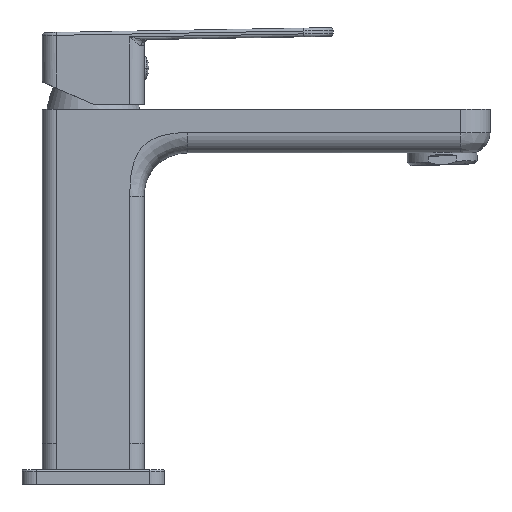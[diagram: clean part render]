
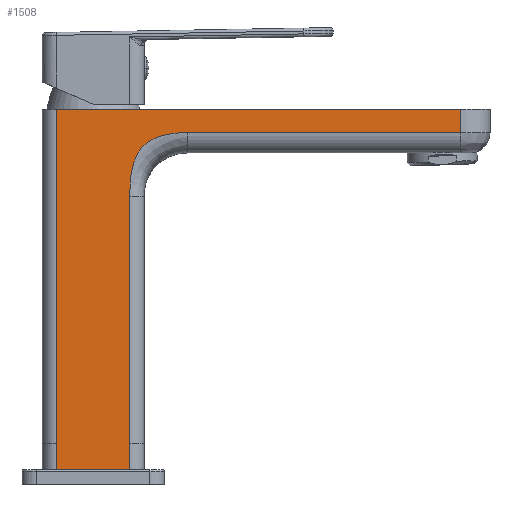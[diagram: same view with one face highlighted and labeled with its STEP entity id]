
A CAD part, front view. The second image highlights one B-rep face of the part: STEP entity #1508.
In plain terms, the highlighted planar face has unit normal (0, -1, 0).
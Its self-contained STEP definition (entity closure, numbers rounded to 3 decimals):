
#26=DIRECTION('',(0.,0.,-1.));
#27=VECTOR('',#26,9.);
#28=CARTESIAN_POINT('',(-12.5,-17.5,14.));
#29=LINE('',#28,#27);
#38=DIRECTION('',(0.,0.,-1.));
#39=VECTOR('',#38,115.);
#40=CARTESIAN_POINT('',(-12.5,-17.5,129.));
#41=LINE('',#40,#39);
#70=DIRECTION('',(1.,0.,0.));
#71=VECTOR('',#70,139.);
#72=CARTESIAN_POINT('',(-12.5,-17.5,129.));
#73=LINE('',#72,#71);
#74=DIRECTION('',(-1.,0.,0.));
#75=VECTOR('',#74,94.);
#76=CARTESIAN_POINT('',(126.5,-17.5,121.));
#77=LINE('',#76,#75);
#78=DIRECTION('',(0.,0.,-1.));
#79=VECTOR('',#78,85.);
#80=CARTESIAN_POINT('',(12.5,-17.5,99.));
#81=LINE('',#80,#79);
#82=DIRECTION('',(-1.,0.,0.));
#83=VECTOR('',#82,25.);
#84=CARTESIAN_POINT('',(12.5,-17.5,5.));
#85=LINE('',#84,#83);
#86=DIRECTION('',(0.,0.,1.));
#87=VECTOR('',#86,8.);
#88=CARTESIAN_POINT('',(126.5,-17.5,121.));
#89=LINE('',#88,#87);
#275=CARTESIAN_POINT('',(12.5,-17.5,99.));
#276=CARTESIAN_POINT('',(12.497,-17.5,100.085));
#277=CARTESIAN_POINT('',(12.546,-17.5,102.142));
#278=CARTESIAN_POINT('',(12.744,-17.5,104.89));
#279=CARTESIAN_POINT('',(13.076,-17.5,107.308));
#280=CARTESIAN_POINT('',(13.521,-17.5,109.417));
#281=CARTESIAN_POINT('',(14.075,-17.5,111.23));
#282=CARTESIAN_POINT('',(14.715,-17.5,112.773));
#283=CARTESIAN_POINT('',(15.419,-17.5,114.087));
#284=CARTESIAN_POINT('',(16.183,-17.5,115.217));
#285=CARTESIAN_POINT('',(17.017,-17.5,116.208));
#286=CARTESIAN_POINT('',(17.938,-17.5,117.091));
#287=CARTESIAN_POINT('',(18.963,-17.5,117.884));
#288=CARTESIAN_POINT('',(20.127,-17.5,118.603));
#289=CARTESIAN_POINT('',(21.47,-17.5,119.256));
#290=CARTESIAN_POINT('',(23.048,-17.5,119.834));
#291=CARTESIAN_POINT('',(24.916,-17.5,120.332));
#292=CARTESIAN_POINT('',(27.097,-17.5,120.705));
#293=CARTESIAN_POINT('',(29.601,-17.5,120.946));
#294=CARTESIAN_POINT('',(31.497,-17.5,121.001));
#295=CARTESIAN_POINT('',(32.5,-17.5,121.));
#395=DIRECTION('',(0.,0.,1.));
#396=VECTOR('',#395,9.);
#397=CARTESIAN_POINT('',(12.5,-17.5,5.));
#398=LINE('',#397,#396);
#1194=CARTESIAN_POINT('',(-12.5,-17.5,5.));
#1196=VERTEX_POINT('',#1194);
#1197=CARTESIAN_POINT('',(12.5,-17.5,5.));
#1198=VERTEX_POINT('',#1197);
#1210=CARTESIAN_POINT('',(-12.5,-17.5,14.));
#1212=VERTEX_POINT('',#1210);
#1215=CARTESIAN_POINT('',(-12.5,-17.5,129.));
#1216=VERTEX_POINT('',#1215);
#1221=CARTESIAN_POINT('',(126.5,-17.5,129.));
#1222=VERTEX_POINT('',#1221);
#1231=CARTESIAN_POINT('',(126.5,-17.5,121.));
#1232=VERTEX_POINT('',#1231);
#1233=CARTESIAN_POINT('',(32.5,-17.5,121.));
#1234=VERTEX_POINT('',#1233);
#1235=VERTEX_POINT('',#275);
#1236=CARTESIAN_POINT('',(12.5,-17.5,14.));
#1237=VERTEX_POINT('',#1236);
#1487=CARTESIAN_POINT('',(12.5,-17.5,14.));
#1488=DIRECTION('',(0.,-1.,0.));
#1489=DIRECTION('',(1.,0.,0.));
#1490=AXIS2_PLACEMENT_3D('',#1487,#1488,#1489);
#1491=PLANE('',#1490);
#1492=ORIENTED_EDGE('',*,*,#1425,.F.);
#1493=ORIENTED_EDGE('',*,*,#1443,.F.);
#1494=ORIENTED_EDGE('',*,*,#1470,.T.);
#1496=ORIENTED_EDGE('',*,*,#1495,.F.);
#1498=ORIENTED_EDGE('',*,*,#1497,.T.);
#1500=ORIENTED_EDGE('',*,*,#1499,.F.);
#1502=ORIENTED_EDGE('',*,*,#1501,.T.);
#1504=ORIENTED_EDGE('',*,*,#1503,.F.);
#1505=ORIENTED_EDGE('',*,*,#1401,.T.);
#1506=EDGE_LOOP('',(#1492,#1493,#1494,#1496,#1498,#1500,#1502,#1504,#1505));
#1507=FACE_OUTER_BOUND('',#1506,.F.);
#1508=ADVANCED_FACE('',(#1507),#1491,.T.);
#296=B_SPLINE_CURVE_WITH_KNOTS('',3,(#275,#276,#277,#278,#279,#280,#281,#282,
#283,#284,#285,#286,#287,#288,#289,#290,#291,#292,#293,#294,#295),.UNSPECIFIED.,
.F.,.F.,(4,1,1,1,1,1,1,1,1,1,1,1,1,1,1,1,1,1,4),(0.,0.056,
0.111,0.167,0.222,0.278,
0.333,0.389,0.444,0.5,0.556,
0.611,0.667,0.722,0.778,
0.833,0.889,0.944,1.),.UNSPECIFIED.);
#1401=EDGE_CURVE('',#1198,#1196,#85,.T.);
#1425=EDGE_CURVE('',#1212,#1196,#29,.T.);
#1443=EDGE_CURVE('',#1216,#1212,#41,.T.);
#1470=EDGE_CURVE('',#1216,#1222,#73,.T.);
#1495=EDGE_CURVE('',#1232,#1222,#89,.T.);
#1497=EDGE_CURVE('',#1232,#1234,#77,.T.);
#1499=EDGE_CURVE('',#1235,#1234,#296,.T.);
#1501=EDGE_CURVE('',#1235,#1237,#81,.T.);
#1503=EDGE_CURVE('',#1198,#1237,#398,.T.);
